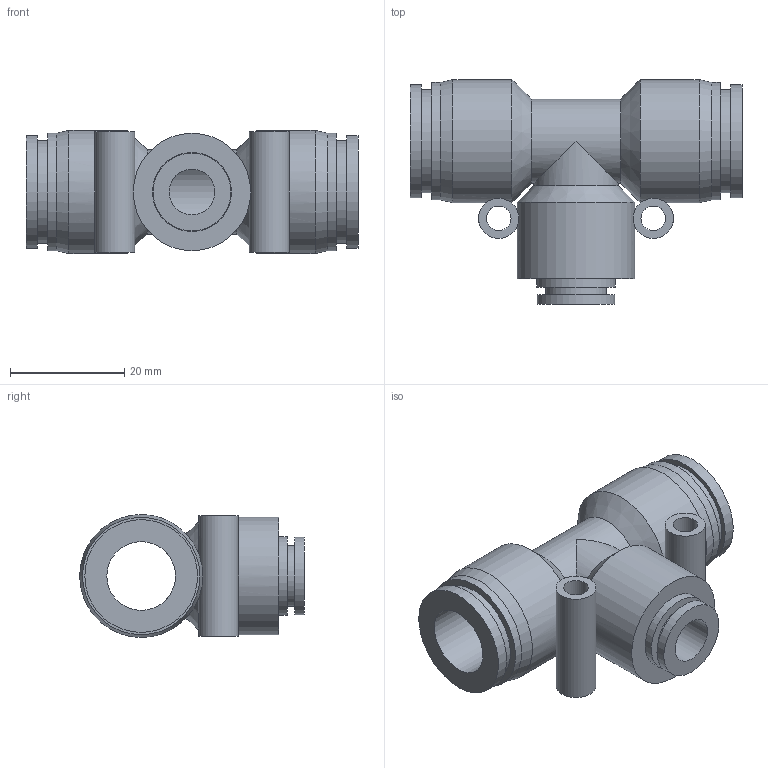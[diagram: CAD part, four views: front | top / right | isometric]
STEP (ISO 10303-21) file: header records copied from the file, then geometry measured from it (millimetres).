
FILE_DESCRIPTION((''),'2;1');
FILE_NAME('S:\UTecnico\ArchivioUT\Speciali Clienti\Speciali KONFIT\DISEGNI 3D\RP\RP 55\RP551208.stp','2012-10-22T16:53:27',('UT5'),(''),'Autodesk Inventor 2012','Autodesk Inventor 2012','');
FILE_SCHEMA(('AUTOMOTIVE_DESIGN { 1 0 10303 214 1 1 1 1 }'));
Length unit declared in the file: millimetre
Products named in the file (1): RP551208
Bounding box: 58 x 39.25 x 21.5 mm (x, y, z)
Volume: 15773.9 mm3; surface area: 9974.9 mm2
Topology: 1 solids, 1 shells, 39 faces, 83 edges, 55 vertices
Faces by surface type: cylinder 20, plane 14, cone 5
Full cylindrical faces by diameter (mm): 4.3 x2, 7 x2, 8 x1, 10.6 x1, 12 x1, 13.6 x1, 13.8 x1, 14.7 x2, 18 x2, 19.7 x2, 20.5 x3, 21.5 x2
Entity records: 1116 total; most frequent: CARTESIAN_POINT 327, DIRECTION 160, ORIENTED_EDGE 90, EDGE_LOOP 88, AXIS2_PLACEMENT_3D 80, FACE_BOUND 49, VERTEX_POINT 45, EDGE_CURVE 45
